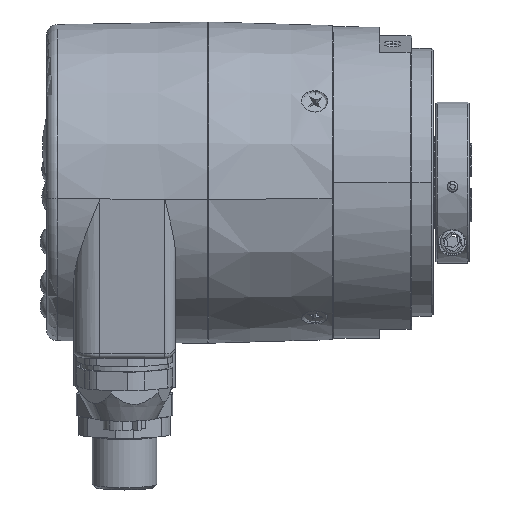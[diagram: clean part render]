
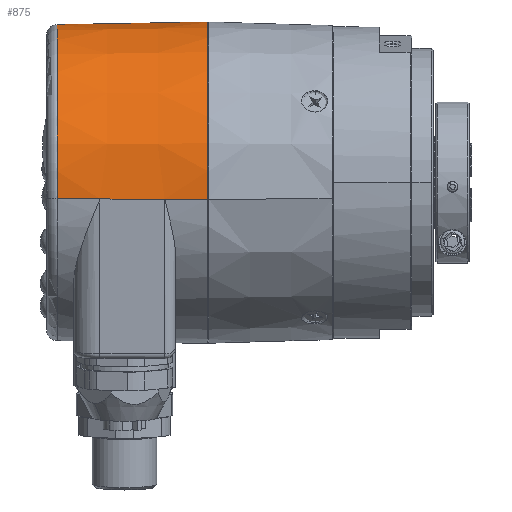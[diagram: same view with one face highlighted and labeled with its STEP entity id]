
A CAD part, top view. The second image highlights one B-rep face of the part: STEP entity #875.
In plain terms, the highlighted conical face has half-angle 1 degrees and reference radius 30 mm.
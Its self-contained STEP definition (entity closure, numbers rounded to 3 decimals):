
#875 = ADVANCED_FACE ( 'NONE', ( #16702 ), #16678, .T. ) ;
#876 = EDGE_LOOP ( 'NONE', ( #877, #881, #1029, #954, #957, #960, #963, #919 ) ) ;
#877 = ORIENTED_EDGE ( 'NONE', *, *, #878, .T. ) ;
#878 = EDGE_CURVE ( 'NONE', #879, #880, #16679, .T. ) ;
#879 = VERTEX_POINT ( 'NONE', #16727 ) ;
#880 = VERTEX_POINT ( 'NONE', #16726 ) ;
#881 = ORIENTED_EDGE ( 'NONE', *, *, #882, .T. ) ;
#882 = EDGE_CURVE ( 'NONE', #880, #883, #16725, .T. ) ;
#883 = VERTEX_POINT ( 'NONE', #16721 ) ;
#919 = ORIENTED_EDGE ( 'NONE', *, *, #921, .F. ) ;
#921 = EDGE_CURVE ( 'NONE', #879, #965, #16845, .T. ) ;
#954 = ORIENTED_EDGE ( 'NONE', *, *, #955, .T. ) ;
#955 = EDGE_CURVE ( 'NONE', #1031, #956, #16981, .T. ) ;
#956 = VERTEX_POINT ( 'NONE', #16977 ) ;
#957 = ORIENTED_EDGE ( 'NONE', *, *, #958, .F. ) ;
#958 = EDGE_CURVE ( 'NONE', #959, #956, #16975, .T. ) ;
#959 = VERTEX_POINT ( 'NONE', #16970 ) ;
#960 = ORIENTED_EDGE ( 'NONE', *, *, #961, .F. ) ;
#961 = EDGE_CURVE ( 'NONE', #962, #959, #16969, .T. ) ;
#962 = VERTEX_POINT ( 'NONE', #16964 ) ;
#963 = ORIENTED_EDGE ( 'NONE', *, *, #964, .F. ) ;
#964 = EDGE_CURVE ( 'NONE', #965, #962, #16965, .T. ) ;
#965 = VERTEX_POINT ( 'NONE', #17022 ) ;
#1029 = ORIENTED_EDGE ( 'NONE', *, *, #1030, .T. ) ;
#1030 = EDGE_CURVE ( 'NONE', #883, #1031, #17285, .T. ) ;
#1031 = VERTEX_POINT ( 'NONE', #17281 ) ;
#16675 = DIRECTION ( 'NONE',  ( 0., 0.105, -0.995 ) ) ;
#16676 = DIRECTION ( 'NONE',  ( 1., 0., 0. ) ) ;
#16677 = AXIS2_PLACEMENT_3D ( 'NONE', #16681, #16676, #16675 ) ;
#16678 = CONICAL_SURFACE ( 'NONE', #16677, 30., 0.017 ) ;
#16679 = CIRCLE ( 'NONE', #16731, 29.511 ) ;
#16681 = CARTESIAN_POINT ( 'NONE',  ( -16., 0., 0. ) ) ;
#16702 = FACE_OUTER_BOUND ( 'NONE', #876, .T. ) ;
#16721 = CARTESIAN_POINT ( 'NONE',  ( -36.087, -3.099, 29.487 ) ) ;
#16722 = DIRECTION ( 'NONE',  ( 1., -0.002, 0.017 ) ) ;
#16723 = VECTOR ( 'NONE', #16722, 1000. ) ;
#16724 = CARTESIAN_POINT ( 'NONE',  ( -16., -3.136, 29.836 ) ) ;
#16725 = LINE ( 'NONE', #16724, #16723 ) ;
#16726 = CARTESIAN_POINT ( 'NONE',  ( -44.035, -3.085, 29.349 ) ) ;
#16727 = CARTESIAN_POINT ( 'NONE',  ( -44.035, 3.085, -29.349 ) ) ;
#16728 = DIRECTION ( 'NONE',  ( 0., -0.105, 0.995 ) ) ;
#16729 = DIRECTION ( 'NONE',  ( 1., 0., 0. ) ) ;
#16730 = CARTESIAN_POINT ( 'NONE',  ( -44.035, 0., 0. ) ) ;
#16731 = AXIS2_PLACEMENT_3D ( 'NONE', #16730, #16729, #16728 ) ;
#16842 = DIRECTION ( 'NONE',  ( 1., 0.002, -0.017 ) ) ;
#16843 = VECTOR ( 'NONE', #16842, 1000. ) ;
#16844 = CARTESIAN_POINT ( 'NONE',  ( -16., 3.136, -29.836 ) ) ;
#16845 = LINE ( 'NONE', #16844, #16843 ) ;
#16963 = CARTESIAN_POINT ( 'NONE',  ( -16.523, 3.135, -29.827 ) ) ;
#16964 = CARTESIAN_POINT ( 'NONE',  ( -24.035, 3.121, -29.696 ) ) ;
#16965 = LINE ( 'NONE', #16963, #17024 ) ;
#16966 = DIRECTION ( 'NONE',  ( 1., 0.002, -0.017 ) ) ;
#16967 = VECTOR ( 'NONE', #16966, 1000. ) ;
#16968 = CARTESIAN_POINT ( 'NONE',  ( -16., 3.136, -29.836 ) ) ;
#16969 = LINE ( 'NONE', #16968, #16967 ) ;
#16970 = CARTESIAN_POINT ( 'NONE',  ( -16., 3.136, -29.836 ) ) ;
#16971 = DIRECTION ( 'NONE',  ( 0., 0.105, -0.995 ) ) ;
#16972 = DIRECTION ( 'NONE',  ( 1., 0., 0. ) ) ;
#16973 = CARTESIAN_POINT ( 'NONE',  ( -16., 0., 0. ) ) ;
#16974 = AXIS2_PLACEMENT_3D ( 'NONE', #16973, #16972, #16971 ) ;
#16975 = CIRCLE ( 'NONE', #16974, 30. ) ;
#16977 = CARTESIAN_POINT ( 'NONE',  ( -16., -3.136, 29.836 ) ) ;
#16978 = DIRECTION ( 'NONE',  ( 1., -0.002, 0.017 ) ) ;
#16979 = VECTOR ( 'NONE', #16978, 1000. ) ;
#16980 = CARTESIAN_POINT ( 'NONE',  ( -16., -3.136, 29.836 ) ) ;
#16981 = LINE ( 'NONE', #16980, #16979 ) ;
#17022 = CARTESIAN_POINT ( 'NONE',  ( -36.087, 3.099, -29.487 ) ) ;
#17023 = DIRECTION ( 'NONE',  ( 1., 0.002, -0.017 ) ) ;
#17024 = VECTOR ( 'NONE', #17023, 1000. ) ;
#17281 = CARTESIAN_POINT ( 'NONE',  ( -24.035, -3.121, 29.696 ) ) ;
#17282 = DIRECTION ( 'NONE',  ( 1., -0.002, 0.017 ) ) ;
#17283 = VECTOR ( 'NONE', #17282, 1000. ) ;
#17284 = CARTESIAN_POINT ( 'NONE',  ( -16.523, -3.135, 29.827 ) ) ;
#17285 = LINE ( 'NONE', #17284, #17283 ) ;
